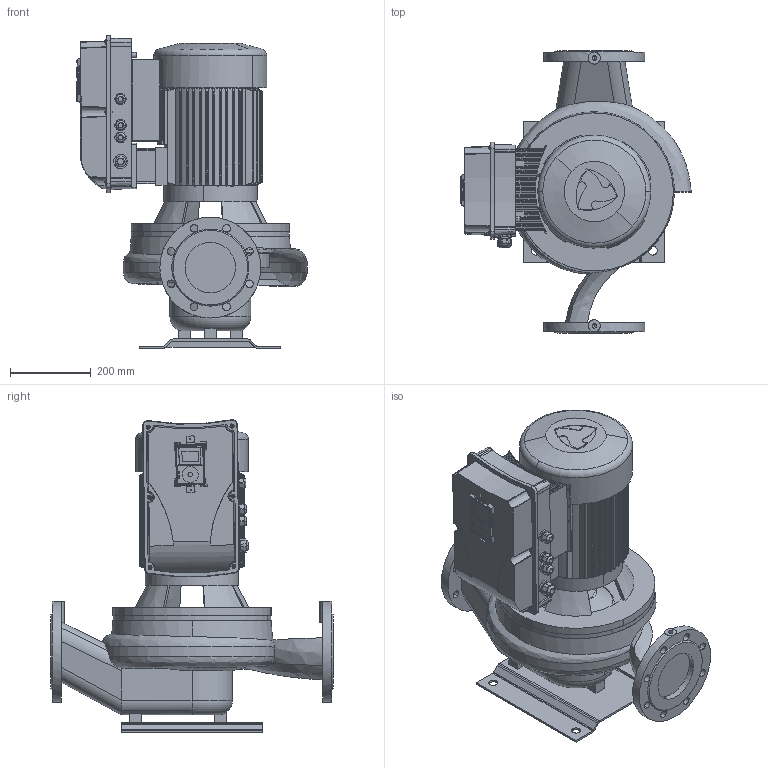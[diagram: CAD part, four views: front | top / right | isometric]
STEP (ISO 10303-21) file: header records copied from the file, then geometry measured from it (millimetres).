
FILE_DESCRIPTION(('STEP AP214'),'1');
FILE_NAME('export.stp','2018-06-01T12:45:00',(' '),(' '),'Spatial InterOp 3D',' ',' ');
FILE_SCHEMA(('AUTOMOTIVE_DESIGN { 1 0 10303 214 1 1 1 1 }'));
Length unit declared in the file: millimetre
Products named in the file (28): W_AL11294550KPVS; V_EKF31OKN132133; V_TLL100SAL1202; P100496; P100495; P100342; V_PPAL1129; V_MKP133_VS; RU_OKN_133; TSUOJA_OKN_132_133; Vacon_MS3; P101415; P101409; P101462; Piirilevyn_pala; A2004-2-4-LP-N-R; P101414; Vacon_Display; CAD-3D-VACON-M100-Display.sldasm; Vacon_display_pla; Vacon_display_scr; DIN_7985-M5x10; M20_tiivisteholkk; M25_tiivisteholkk; G43699; DIN_7985-M5x20; DIN_7985-M4x16; SOVITUSPALA
Assembly tree (43 placements, depth 5):
  W_AL11294550KPVS
    V_EKF31OKN132133
    V_TLL100SAL1202
    P100496
      P100495  x2
      P100342
    V_PPAL1129
    V_MKP133_VS
      RU_OKN_133
      TSUOJA_OKN_132_133
      Vacon_MS3
        P101415
        P101409
        P101462
          Piirilevyn_pala
          A2004-2-4-LP-N-R  x2
        P101414
        Vacon_Display
          CAD-3D-VACON-M100-Display.sldasm
          Vacon_display_pla
          Vacon_display_scr
        DIN_7985-M5x10  x6
        M20_tiivisteholkk  x3
        M25_tiivisteholkk
        G43699  x2
        DIN_7985-M5x20  x6
        DIN_7985-M4x16
      SOVITUSPALA
      G43699
Bounding box: 570.81 x 700 x 774.96 mm (x, y, z)
Volume: 26780172.6 mm3; surface area: 4118291.6 mm2
Topology: 36 solids, 1510 shells, 3937 faces, 14178 edges, 11805 vertices
Faces by surface type: bspline 1523, plane 1085, cylinder 843, cone 278, torus 165, sphere 43
Entity records: 182046 total; most frequent: CARTESIAN_POINT 68675, ORIENTED_EDGE 18179, EDGE_CURVE 12920, VERTEX_POINT 11045, DIRECTION 10581, B_SPLINE_CURVE_WITH_KNOTS 6855, AXIS2_PLACEMENT_3D 4008, STYLED_ITEM 3822
